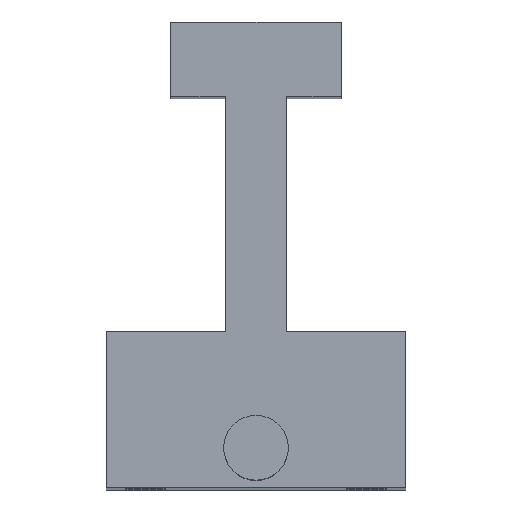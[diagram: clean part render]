
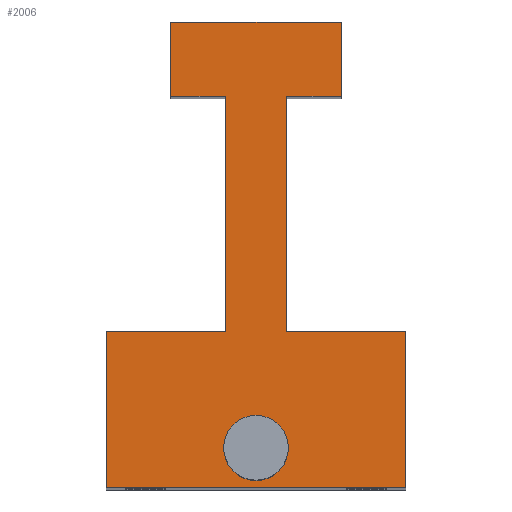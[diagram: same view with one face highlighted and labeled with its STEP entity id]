
A CAD part, top view. The second image highlights one B-rep face of the part: STEP entity #2006.
In plain terms, the highlighted planar face has unit normal (0, 0, 1).
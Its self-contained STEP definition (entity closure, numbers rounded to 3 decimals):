
#52 = EDGE_CURVE ( 'NONE', #460, #1411, #167, .T. ) ;
#60 = DIRECTION ( 'NONE',  ( 0., 0., 1. ) ) ;
#84 = CARTESIAN_POINT ( 'NONE',  ( -5.4, 14.75, 85. ) ) ;
#97 = ORIENTED_EDGE ( 'NONE', *, *, #790, .T. ) ;
#110 = VECTOR ( 'NONE', #550, 1000. ) ;
#154 = ORIENTED_EDGE ( 'NONE', *, *, #326, .T. ) ;
#167 = LINE ( 'NONE', #439, #560 ) ;
#177 = DIRECTION ( 'NONE',  ( 0., 1., 0. ) ) ;
#180 = ORIENTED_EDGE ( 'NONE', *, *, #1014, .T. ) ;
#216 = CARTESIAN_POINT ( 'NONE',  ( 0., 0., 85. ) ) ;
#259 = CARTESIAN_POINT ( 'NONE',  ( 9.5, -14.75, 85. ) ) ;
#287 = VERTEX_POINT ( 'NONE', #1441 ) ;
#310 = FACE_BOUND ( 'NONE', #1071, .T. ) ;
#325 = CARTESIAN_POINT ( 'NONE',  ( 5.4, 14.75, 85. ) ) ;
#326 = EDGE_CURVE ( 'NONE', #1149, #287, #527, .T. ) ;
#340 = EDGE_CURVE ( 'NONE', #1742, #684, #381, .T. ) ;
#363 = VECTOR ( 'NONE', #1608, 1000. ) ;
#380 = FACE_OUTER_BOUND ( 'NONE', #1414, .T. ) ;
#381 = LINE ( 'NONE', #541, #363 ) ;
#390 = CARTESIAN_POINT ( 'NONE',  ( 5.4, 10.05, 85. ) ) ;
#415 = VECTOR ( 'NONE', #1976, 1000. ) ;
#418 = DIRECTION ( 'NONE',  ( 0., 0., 1. ) ) ;
#420 = CARTESIAN_POINT ( 'NONE',  ( 5.4, 10.05, 85. ) ) ;
#422 = CARTESIAN_POINT ( 'NONE',  ( -9.5, -4.85, 85. ) ) ;
#427 = ORIENTED_EDGE ( 'NONE', *, *, #1084, .T. ) ;
#430 = EDGE_CURVE ( 'NONE', #287, #966, #925, .T. ) ;
#439 = CARTESIAN_POINT ( 'NONE',  ( -9.5, -14.75, 85. ) ) ;
#460 = VERTEX_POINT ( 'NONE', #874 ) ;
#507 = CARTESIAN_POINT ( 'NONE',  ( 0., -12.25, 85. ) ) ;
#526 = CIRCLE ( 'NONE', #1112, 2.05 ) ;
#527 = LINE ( 'NONE', #1281, #1666 ) ;
#541 = CARTESIAN_POINT ( 'NONE',  ( -1.95, -4.85, 85. ) ) ;
#550 = DIRECTION ( 'NONE',  ( -1., 0., 0. ) ) ;
#560 = VECTOR ( 'NONE', #1677, 1000. ) ;
#573 = CARTESIAN_POINT ( 'NONE',  ( 0., -12.25, 85. ) ) ;
#581 = EDGE_CURVE ( 'NONE', #829, #1044, #1144, .T. ) ;
#585 = ORIENTED_EDGE ( 'NONE', *, *, #1120, .T. ) ;
#650 = EDGE_CURVE ( 'NONE', #684, #460, #1318, .T. ) ;
#653 = CARTESIAN_POINT ( 'NONE',  ( -1.95, 10.05, 85. ) ) ;
#663 = ORIENTED_EDGE ( 'NONE', *, *, #1998, .F. ) ;
#684 = VERTEX_POINT ( 'NONE', #1066 ) ;
#700 = VECTOR ( 'NONE', #1977, 1000. ) ;
#743 = LINE ( 'NONE', #420, #1934 ) ;
#760 = ORIENTED_EDGE ( 'NONE', *, *, #430, .T. ) ;
#770 = LINE ( 'NONE', #1771, #842 ) ;
#782 = CARTESIAN_POINT ( 'NONE',  ( -9.5, -14.75, 85. ) ) ;
#790 = EDGE_CURVE ( 'NONE', #1302, #1742, #1792, .T. ) ;
#812 = CARTESIAN_POINT ( 'NONE',  ( -5.4, 10.05, 85. ) ) ;
#823 = VECTOR ( 'NONE', #951, 1000. ) ;
#829 = VERTEX_POINT ( 'NONE', #325 ) ;
#842 = VECTOR ( 'NONE', #1777, 1000. ) ;
#859 = DIRECTION ( 'NONE',  ( 0., 1., 0. ) ) ;
#866 = CARTESIAN_POINT ( 'NONE',  ( 1.95, -4.85, 85. ) ) ;
#873 = AXIS2_PLACEMENT_3D ( 'NONE', #216, #1769, #1924 ) ;
#874 = CARTESIAN_POINT ( 'NONE',  ( -9.5, -4.85, 85. ) ) ;
#925 = LINE ( 'NONE', #1476, #110 ) ;
#951 = DIRECTION ( 'NONE',  ( 1., 0., 0. ) ) ;
#959 = EDGE_CURVE ( 'NONE', #1044, #1302, #770, .T. ) ;
#966 = VERTEX_POINT ( 'NONE', #866 ) ;
#969 = VERTEX_POINT ( 'NONE', #390 ) ;
#986 = ORIENTED_EDGE ( 'NONE', *, *, #581, .T. ) ;
#1014 = EDGE_CURVE ( 'NONE', #966, #1951, #1420, .T. ) ;
#1028 = CARTESIAN_POINT ( 'NONE',  ( -5.4, 14.75, 85. ) ) ;
#1037 = DIRECTION ( 'NONE',  ( -1., 0., 0. ) ) ;
#1044 = VERTEX_POINT ( 'NONE', #84 ) ;
#1046 = VERTEX_POINT ( 'NONE', #1927 ) ;
#1050 = AXIS2_PLACEMENT_3D ( 'NONE', #573, #418, #1037 ) ;
#1059 = VECTOR ( 'NONE', #1987, 1000. ) ;
#1066 = CARTESIAN_POINT ( 'NONE',  ( -1.95, -4.85, 85. ) ) ;
#1071 = EDGE_LOOP ( 'NONE', ( #663, #1201 ) ) ;
#1084 = EDGE_CURVE ( 'NONE', #1411, #1149, #1716, .T. ) ;
#1102 = CARTESIAN_POINT ( 'NONE',  ( -1.95, 10.05, 85. ) ) ;
#1103 = CIRCLE ( 'NONE', #1050, 2.05 ) ;
#1112 = AXIS2_PLACEMENT_3D ( 'NONE', #507, #60, #1125 ) ;
#1120 = EDGE_CURVE ( 'NONE', #1951, #969, #743, .T. ) ;
#1125 = DIRECTION ( 'NONE',  ( -1., 0., 0. ) ) ;
#1144 = LINE ( 'NONE', #1028, #1472 ) ;
#1148 = CARTESIAN_POINT ( 'NONE',  ( 1.95, 10.05, 85. ) ) ;
#1149 = VERTEX_POINT ( 'NONE', #1654 ) ;
#1158 = ORIENTED_EDGE ( 'NONE', *, *, #1658, .T. ) ;
#1172 = DIRECTION ( 'NONE',  ( -1., 0., 0. ) ) ;
#1198 = ORIENTED_EDGE ( 'NONE', *, *, #959, .T. ) ;
#1201 = ORIENTED_EDGE ( 'NONE', *, *, #1618, .F. ) ;
#1281 = CARTESIAN_POINT ( 'NONE',  ( 9.5, -4.85, 85. ) ) ;
#1287 = CARTESIAN_POINT ( 'NONE',  ( 1.95, 10.05, 85. ) ) ;
#1302 = VERTEX_POINT ( 'NONE', #812 ) ;
#1318 = LINE ( 'NONE', #422, #700 ) ;
#1319 = LINE ( 'NONE', #1517, #1059 ) ;
#1341 = CARTESIAN_POINT ( 'NONE',  ( 2.05, -12.25, 85. ) ) ;
#1411 = VERTEX_POINT ( 'NONE', #782 ) ;
#1414 = EDGE_LOOP ( 'NONE', ( #1198, #97, #1503, #1478, #1673, #427, #154, #760, #180, #585, #1158, #986 ) ) ;
#1420 = LINE ( 'NONE', #1148, #1516 ) ;
#1441 = CARTESIAN_POINT ( 'NONE',  ( 9.5, -4.85, 85. ) ) ;
#1472 = VECTOR ( 'NONE', #1172, 1000. ) ;
#1476 = CARTESIAN_POINT ( 'NONE',  ( 1.95, -4.85, 85. ) ) ;
#1478 = ORIENTED_EDGE ( 'NONE', *, *, #650, .T. ) ;
#1503 = ORIENTED_EDGE ( 'NONE', *, *, #340, .T. ) ;
#1516 = VECTOR ( 'NONE', #859, 1000. ) ;
#1517 = CARTESIAN_POINT ( 'NONE',  ( 5.4, 14.75, 85. ) ) ;
#1590 = PLANE ( 'NONE',  #873 ) ;
#1608 = DIRECTION ( 'NONE',  ( 0., -1., 0. ) ) ;
#1618 = EDGE_CURVE ( 'NONE', #1650, #1046, #1103, .T. ) ;
#1650 = VERTEX_POINT ( 'NONE', #1341 ) ;
#1654 = CARTESIAN_POINT ( 'NONE',  ( 9.5, -14.75, 85. ) ) ;
#1658 = EDGE_CURVE ( 'NONE', #969, #829, #1319, .T. ) ;
#1666 = VECTOR ( 'NONE', #177, 1000. ) ;
#1673 = ORIENTED_EDGE ( 'NONE', *, *, #52, .T. ) ;
#1677 = DIRECTION ( 'NONE',  ( 0., -1., 0. ) ) ;
#1716 = LINE ( 'NONE', #259, #415 ) ;
#1742 = VERTEX_POINT ( 'NONE', #653 ) ;
#1769 = DIRECTION ( 'NONE',  ( 0., 0., -1. ) ) ;
#1771 = CARTESIAN_POINT ( 'NONE',  ( -5.4, 10.05, 85. ) ) ;
#1777 = DIRECTION ( 'NONE',  ( 0., -1., 0. ) ) ;
#1792 = LINE ( 'NONE', #1102, #823 ) ;
#1803 = DIRECTION ( 'NONE',  ( 1., 0., 0. ) ) ;
#1924 = DIRECTION ( 'NONE',  ( -1., 0., 0. ) ) ;
#1927 = CARTESIAN_POINT ( 'NONE',  ( -2.05, -12.25, 85. ) ) ;
#1934 = VECTOR ( 'NONE', #1803, 1000. ) ;
#1951 = VERTEX_POINT ( 'NONE', #1287 ) ;
#1976 = DIRECTION ( 'NONE',  ( 1., 0., 0. ) ) ;
#1977 = DIRECTION ( 'NONE',  ( -1., 0., 0. ) ) ;
#1987 = DIRECTION ( 'NONE',  ( 0., 1., 0. ) ) ;
#1998 = EDGE_CURVE ( 'NONE', #1046, #1650, #526, .T. ) ;
#2006 = ADVANCED_FACE ( 'NONE', ( #310, #380 ), #1590, .F. ) ;
